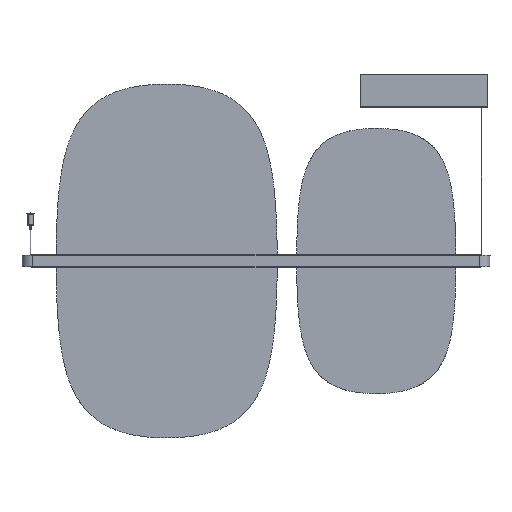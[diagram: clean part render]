
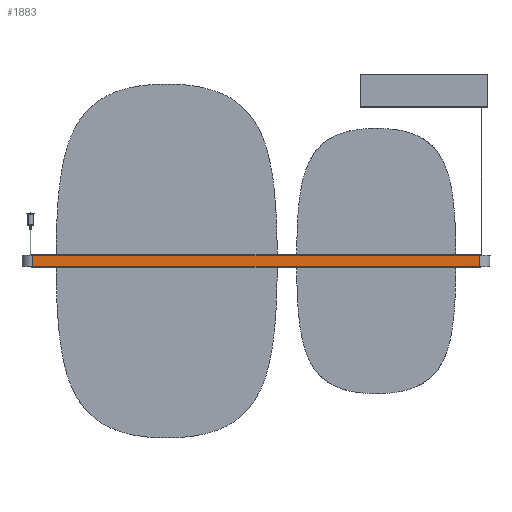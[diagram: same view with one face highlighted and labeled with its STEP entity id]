
A CAD part, front view. The second image highlights one B-rep face of the part: STEP entity #1883.
In plain terms, the highlighted planar face has unit normal (0, -1, 0).
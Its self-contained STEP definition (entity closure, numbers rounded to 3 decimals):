
#1883=ADVANCED_FACE('',(#3202),#23342,.T.);
#3202=FACE_OUTER_BOUND('',#4532,.T.);
#4532=EDGE_LOOP('',(#11889,#11890,#11891,#11892));
#11889=ORIENTED_EDGE('',*,*,#15933,.T.);
#11890=ORIENTED_EDGE('',*,*,#15945,.T.);
#11891=ORIENTED_EDGE('',*,*,#15853,.F.);
#11892=ORIENTED_EDGE('',*,*,#15946,.T.);
#15853=EDGE_CURVE('',#22119,#22120,#19482,.T.);
#15933=EDGE_CURVE('',#22253,#22252,#19558,.T.);
#15945=EDGE_CURVE('',#22252,#22120,#19570,.T.);
#15946=EDGE_CURVE('',#22119,#22253,#19571,.T.);
#19482=B_SPLINE_CURVE_WITH_KNOTS('',1,(#40608,#40609),.UNSPECIFIED.,.F.,
 .F.,(2,2),(0.,26.8),.UNSPECIFIED.);
#19558=B_SPLINE_CURVE_WITH_KNOTS('',1,(#40772,#40773),.UNSPECIFIED.,.F.,
 .F.,(2,2),(-26.8,0.),.UNSPECIFIED.);
#19570=B_SPLINE_CURVE_WITH_KNOTS('',1,(#40796,#40797),.UNSPECIFIED.,.F.,
 .F.,(2,2),(0.,1010.),.UNSPECIFIED.);
#19571=B_SPLINE_CURVE_WITH_KNOTS('',1,(#40798,#40799),.UNSPECIFIED.,.F.,
 .F.,(2,2),(0.,1010.),.UNSPECIFIED.);
#22119=VERTEX_POINT('',#40185);
#22120=VERTEX_POINT('',#40186);
#22252=VERTEX_POINT('',#40318);
#22253=VERTEX_POINT('',#40319);
#23342=PLANE('',#25478);
#25478=AXIS2_PLACEMENT_3D('',#39915,#26823,$);
#26823=DIRECTION('',(0.,-1.,0.));
#39915=CARTESIAN_POINT('',(-606.12,-23.9,16.2));
#40185=CARTESIAN_POINT('',(-505.,-23.9,-13.4));
#40186=CARTESIAN_POINT('',(-505.,-23.9,13.4));
#40318=CARTESIAN_POINT('',(505.,-23.9,13.4));
#40319=CARTESIAN_POINT('',(505.,-23.9,-13.4));
#40608=CARTESIAN_POINT('',(-505.,-23.9,-13.4));
#40609=CARTESIAN_POINT('',(-505.,-23.9,13.4));
#40772=CARTESIAN_POINT('',(505.,-23.9,-13.4));
#40773=CARTESIAN_POINT('',(505.,-23.9,13.4));
#40796=CARTESIAN_POINT('',(505.,-23.9,13.4));
#40797=CARTESIAN_POINT('',(-505.,-23.9,13.4));
#40798=CARTESIAN_POINT('',(-505.,-23.9,-13.4));
#40799=CARTESIAN_POINT('',(505.,-23.9,-13.4));
